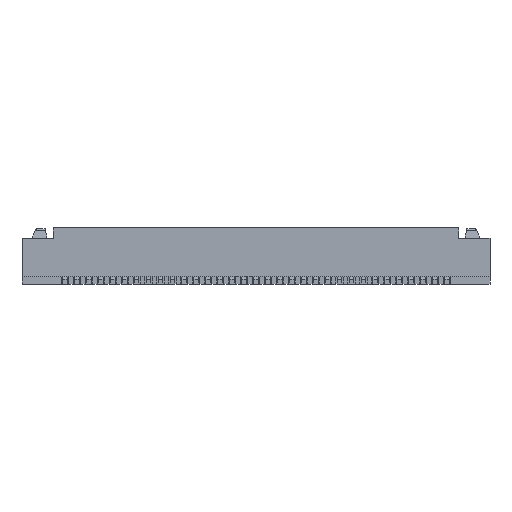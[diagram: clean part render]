
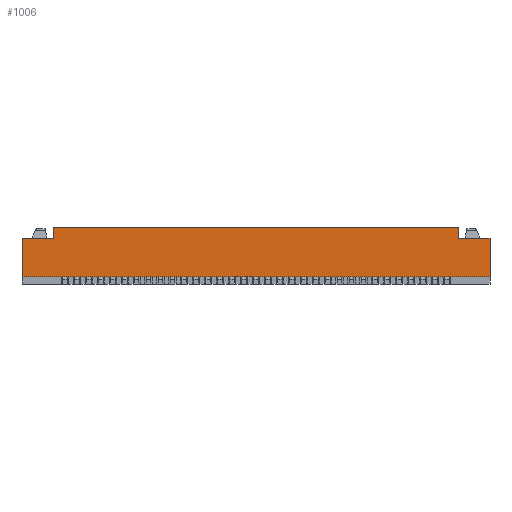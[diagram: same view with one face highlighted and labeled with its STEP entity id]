
A CAD part, front view. The second image highlights one B-rep face of the part: STEP entity #1006.
In plain terms, the highlighted planar face has unit normal (0, -1, 0).
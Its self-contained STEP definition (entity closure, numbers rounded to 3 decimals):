
#399=CARTESIAN_POINT('Vertex',(-8.5,-2.4,1.92)) ;
#402=CARTESIAN_POINT('Line Origine',(-8.5,-2.4,2.135)) ;
#406=CARTESIAN_POINT('Vertex',(-8.5,-2.4,2.35)) ;
#944=CARTESIAN_POINT('Axis2P3D Location',(0.,-2.4,0.3)) ;
#949=CARTESIAN_POINT('Line Origine',(-9.15,-2.4,1.92)) ;
#953=CARTESIAN_POINT('Vertex',(-9.8,-2.4,1.92)) ;
#956=CARTESIAN_POINT('Line Origine',(-9.8,-2.4,1.11)) ;
#960=CARTESIAN_POINT('Vertex',(-9.8,-2.4,0.3)) ;
#963=CARTESIAN_POINT('Line Origine',(0.,-2.4,0.3)) ;
#967=CARTESIAN_POINT('Vertex',(9.8,-2.4,0.3)) ;
#970=CARTESIAN_POINT('Line Origine',(9.8,-2.4,1.11)) ;
#974=CARTESIAN_POINT('Vertex',(9.8,-2.4,1.92)) ;
#977=CARTESIAN_POINT('Line Origine',(9.15,-2.4,1.92)) ;
#981=CARTESIAN_POINT('Vertex',(8.5,-2.4,1.92)) ;
#984=CARTESIAN_POINT('Line Origine',(8.5,-2.4,2.135)) ;
#988=CARTESIAN_POINT('Vertex',(8.5,-2.4,2.35)) ;
#991=CARTESIAN_POINT('Line Origine',(0.,-2.4,2.35)) ;
#403=DIRECTION('Vector Direction',(0.,0.,-1.)) ;
#945=DIRECTION('Axis2P3D Direction',(0.,1.,0.)) ;
#946=DIRECTION('Axis2P3D XDirection',(0.,0.,1.)) ;
#950=DIRECTION('Vector Direction',(1.,0.,0.)) ;
#957=DIRECTION('Vector Direction',(0.,0.,1.)) ;
#964=DIRECTION('Vector Direction',(1.,0.,0.)) ;
#971=DIRECTION('Vector Direction',(0.,0.,1.)) ;
#978=DIRECTION('Vector Direction',(-1.,0.,0.)) ;
#985=DIRECTION('Vector Direction',(0.,0.,-1.)) ;
#992=DIRECTION('Vector Direction',(1.,0.,0.)) ;
#947=AXIS2_PLACEMENT_3D('Plane Axis2P3D',#944,#945,#946) ;
#997=ORIENTED_EDGE('',*,*,#408,.T.) ;
#998=ORIENTED_EDGE('',*,*,#955,.F.) ;
#999=ORIENTED_EDGE('',*,*,#962,.T.) ;
#1000=ORIENTED_EDGE('',*,*,#969,.T.) ;
#1001=ORIENTED_EDGE('',*,*,#976,.F.) ;
#1002=ORIENTED_EDGE('',*,*,#983,.T.) ;
#1003=ORIENTED_EDGE('',*,*,#990,.F.) ;
#1004=ORIENTED_EDGE('',*,*,#995,.F.) ;
#404=VECTOR('Line Direction',#403,1.) ;
#951=VECTOR('Line Direction',#950,1.) ;
#958=VECTOR('Line Direction',#957,1.) ;
#965=VECTOR('Line Direction',#964,1.) ;
#972=VECTOR('Line Direction',#971,1.) ;
#979=VECTOR('Line Direction',#978,1.) ;
#986=VECTOR('Line Direction',#985,1.) ;
#993=VECTOR('Line Direction',#992,1.) ;
#1006=ADVANCED_FACE('\X2\96F64EF651E04F554F53\X0\',(#1005),#948,.F.) ;
#408=EDGE_CURVE('',#407,#400,#405,.T.) ;
#955=EDGE_CURVE('',#954,#400,#952,.T.) ;
#962=EDGE_CURVE('',#954,#961,#959,.F.) ;
#969=EDGE_CURVE('',#961,#968,#966,.T.) ;
#976=EDGE_CURVE('',#975,#968,#973,.F.) ;
#983=EDGE_CURVE('',#975,#982,#980,.T.) ;
#990=EDGE_CURVE('',#989,#982,#987,.T.) ;
#995=EDGE_CURVE('',#407,#989,#994,.T.) ;
#996=EDGE_LOOP('',(#997,#998,#999,#1000,#1001,#1002,#1003,#1004)) ;
#1005=FACE_OUTER_BOUND('',#996,.T.) ;
#405=LINE('Line',#402,#404) ;
#952=LINE('Line',#949,#951) ;
#959=LINE('Line',#956,#958) ;
#966=LINE('Line',#963,#965) ;
#973=LINE('Line',#970,#972) ;
#980=LINE('Line',#977,#979) ;
#987=LINE('Line',#984,#986) ;
#994=LINE('Line',#991,#993) ;
#948=PLANE('Plane',#947) ;
#400=VERTEX_POINT('',#399) ;
#407=VERTEX_POINT('',#406) ;
#954=VERTEX_POINT('',#953) ;
#961=VERTEX_POINT('',#960) ;
#968=VERTEX_POINT('',#967) ;
#975=VERTEX_POINT('',#974) ;
#982=VERTEX_POINT('',#981) ;
#989=VERTEX_POINT('',#988) ;
